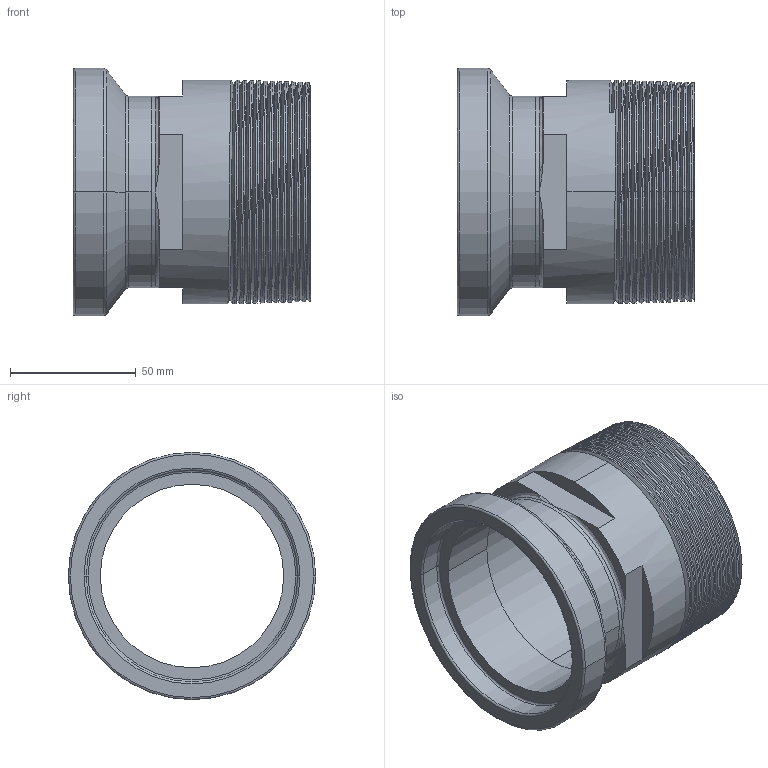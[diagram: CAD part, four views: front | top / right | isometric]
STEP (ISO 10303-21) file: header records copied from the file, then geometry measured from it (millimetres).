
FILE_DESCRIPTION (( 'STEP AP203' ), '1' );
FILE_NAME ('E21I-15I 3.0.STEP', '2021-10-26T18:40:09', ( '' ), ( '' ), 'SwSTEP 2.0', 'SolidWorks 2021', '' );
FILE_SCHEMA (( 'CONFIG_CONTROL_DESIGN' ));
Length unit declared in the file: inch
Products named in the file (3): E15WI3.0; 19WBF3.0; E21I-15I 3.0
Assembly tree (2 placements, depth 2):
  E21I-15I 3.0
    19WBF3.0
    E15WI3.0
Bounding box: 94.44 x 98.3 x 98.3 mm (x, y, z)
Volume: 156321.3 mm3; surface area: 66963.2 mm2
Topology: 2 solids, 2 shells, 78 faces, 196 edges, 123 vertices
Faces by surface type: cone 28, plane 18, cylinder 15, torus 14, bspline 3
Entity records: 14307 total; most frequent: CARTESIAN_POINT 12210, ORIENTED_EDGE 392, DIRECTION 356, EDGE_CURVE 196, AXIS2_PLACEMENT_3D 146, VERTEX_POINT 123, EDGE_LOOP 83, FACE_OUTER_BOUND 78
